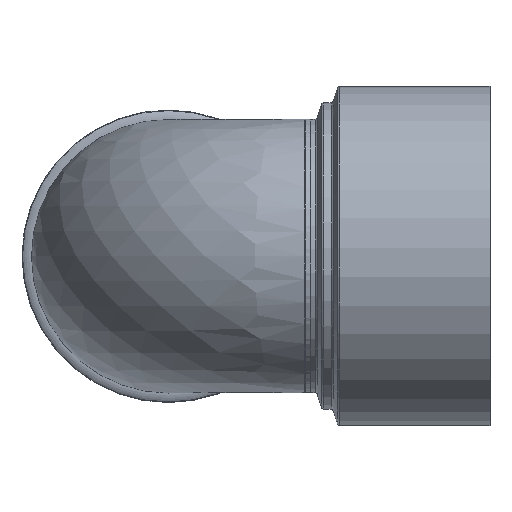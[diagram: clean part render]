
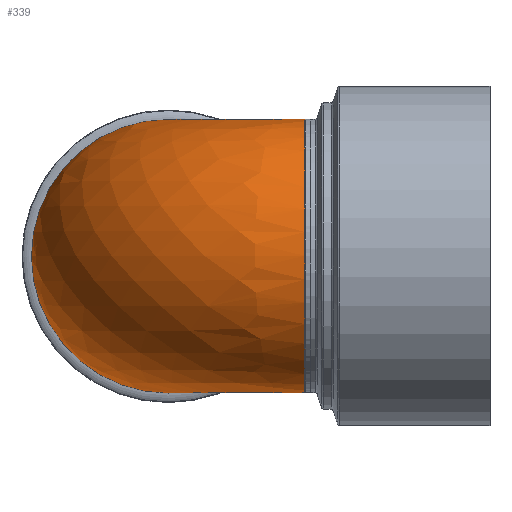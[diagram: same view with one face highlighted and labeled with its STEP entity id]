
A CAD part, top view. The second image highlights one B-rep face of the part: STEP entity #339.
In plain terms, the highlighted free-form (B-spline) face has degree [2, 2] with [9, 9] control points.
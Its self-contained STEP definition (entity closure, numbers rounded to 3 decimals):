
#22=(
BOUNDED_SURFACE()
B_SPLINE_SURFACE(2,2,((#576,#577,#578,#579,#580,#581,#582,#583,#584),(#585,
#586,#587,#588,#589,#590,#591,#592,#593),(#594,#595,#596,#597,#598,#599,
#600,#601,#602),(#603,#604,#605,#606,#607,#608,#609,#610,#611),(#612,#613,
#614,#615,#616,#617,#618,#619,#620),(#621,#622,#623,#624,#625,#626,#627,
#628,#629),(#630,#631,#632,#633,#634,#635,#636,#637,#638),(#639,#640,#641,
#642,#643,#644,#645,#646,#647),(#648,#649,#650,#651,#652,#653,#654,#655,
#656)),.UNSPECIFIED.,.T.,.T.,.F.)
B_SPLINE_SURFACE_WITH_KNOTS((3,2,2,2,3),(3,2,2,2,3),(-3.142,
-1.571,0.,1.571,3.142),(-3.142,
-1.571,0.,1.571,3.142),.UNSPECIFIED.)
GEOMETRIC_REPRESENTATION_ITEM()
RATIONAL_B_SPLINE_SURFACE(((1.,0.707,1.,0.707,1.,
0.707,1.,0.707,1.),(0.707,0.5,0.707,
0.5,0.707,0.5,0.707,0.5,0.707),(1.,
0.707,1.,0.707,1.,0.707,1.,0.707,
1.),(0.707,0.5,0.707,0.5,
0.707,0.5,0.707,0.5,
0.707),(1.,0.707,1.,0.707,1.,0.707,
1.,0.707,1.),(0.707,0.5,0.707,
0.5,0.707,0.5,0.707,
0.5,0.707),(1.,0.707,1.,0.707,
1.,0.707,1.,0.707,1.),(0.707,0.5,0.707,
0.5,0.707,0.5,0.707,0.5,0.707),(1.,
0.707,1.,0.707,1.,0.707,1.,0.707,
1.)))
REPRESENTATION_ITEM($)
SURFACE()
);
#85=FACE_OUTER_BOUND($,#121,.T.);
#121=EDGE_LOOP($,(#259,#260));
#167=CIRCLE($,#383,25.075);
#168=CIRCLE($,#384,25.075);
#195=VERTEX_POINT($,#574);
#222=EDGE_CURVE($,#195,#195,#167,.T.);
#223=EDGE_CURVE($,#195,#195,#168,.T.);
#259=ORIENTED_EDGE($,*,*,#222,.T.);
#260=ORIENTED_EDGE($,*,*,#223,.F.);
#339=ADVANCED_FACE($,(#85),#22,.F.);
#383=AXIS2_PLACEMENT_3D($,#575,#465,#466);
#384=AXIS2_PLACEMENT_3D($,#657,#467,#468);
#465=DIRECTION('center_axis',(-1.,0.,0.));
#466=DIRECTION('ref_axis',(0.,0.,1.));
#467=DIRECTION('center_axis',(0.,0.,-1.));
#468=DIRECTION('ref_axis',(-1.,0.,0.));
#574=CARTESIAN_POINT('',(25.075,0.,57.85));
#575=CARTESIAN_POINT('Origin',(25.075,0.,82.925));
#576=CARTESIAN_POINT('Ctrl Pts',(25.075,0.,57.85));
#577=CARTESIAN_POINT('Ctrl Pts',(25.075,0.,57.85));
#578=CARTESIAN_POINT('Ctrl Pts',(25.075,0.,57.85));
#579=CARTESIAN_POINT('Ctrl Pts',(25.075,0.,57.85));
#580=CARTESIAN_POINT('Ctrl Pts',(25.075,0.,57.85));
#581=CARTESIAN_POINT('Ctrl Pts',(25.075,0.,57.85));
#582=CARTESIAN_POINT('Ctrl Pts',(25.075,0.,57.85));
#583=CARTESIAN_POINT('Ctrl Pts',(25.075,0.,57.85));
#584=CARTESIAN_POINT('Ctrl Pts',(25.075,0.,57.85));
#585=CARTESIAN_POINT('Ctrl Pts',(25.075,-25.075,57.85));
#586=CARTESIAN_POINT('Ctrl Pts',(25.075,-25.075,57.85));
#587=CARTESIAN_POINT('Ctrl Pts',(25.075,-25.075,57.85));
#588=CARTESIAN_POINT('Ctrl Pts',(25.075,-25.075,57.85));
#589=CARTESIAN_POINT('Ctrl Pts',(25.075,-25.075,57.85));
#590=CARTESIAN_POINT('Ctrl Pts',(25.075,-25.075,57.85));
#591=CARTESIAN_POINT('Ctrl Pts',(25.075,-25.075,57.85));
#592=CARTESIAN_POINT('Ctrl Pts',(25.075,-25.075,57.85));
#593=CARTESIAN_POINT('Ctrl Pts',(25.075,-25.075,57.85));
#594=CARTESIAN_POINT('Ctrl Pts',(25.075,-25.075,32.775));
#595=CARTESIAN_POINT('Ctrl Pts',(0.,-25.075,32.775));
#596=CARTESIAN_POINT('Ctrl Pts',(0.,-25.075,57.85));
#597=CARTESIAN_POINT('Ctrl Pts',(0.,-25.075,82.925));
#598=CARTESIAN_POINT('Ctrl Pts',(25.075,-25.075,82.925));
#599=CARTESIAN_POINT('Ctrl Pts',(50.15,-25.075,82.925));
#600=CARTESIAN_POINT('Ctrl Pts',(50.15,-25.075,57.85));
#601=CARTESIAN_POINT('Ctrl Pts',(50.15,-25.075,32.775));
#602=CARTESIAN_POINT('Ctrl Pts',(25.075,-25.075,32.775));
#603=CARTESIAN_POINT('Ctrl Pts',(25.075,-25.075,7.7));
#604=CARTESIAN_POINT('Ctrl Pts',(-25.075,-25.075,7.7));
#605=CARTESIAN_POINT('Ctrl Pts',(-25.075,-25.075,57.85));
#606=CARTESIAN_POINT('Ctrl Pts',(-25.075,-25.075,108.));
#607=CARTESIAN_POINT('Ctrl Pts',(25.075,-25.075,108.));
#608=CARTESIAN_POINT('Ctrl Pts',(75.225,-25.075,108.));
#609=CARTESIAN_POINT('Ctrl Pts',(75.225,-25.075,57.85));
#610=CARTESIAN_POINT('Ctrl Pts',(75.225,-25.075,7.7));
#611=CARTESIAN_POINT('Ctrl Pts',(25.075,-25.075,7.7));
#612=CARTESIAN_POINT('Ctrl Pts',(25.075,0.,7.7));
#613=CARTESIAN_POINT('Ctrl Pts',(-25.075,0.,7.7));
#614=CARTESIAN_POINT('Ctrl Pts',(-25.075,0.,57.85));
#615=CARTESIAN_POINT('Ctrl Pts',(-25.075,0.,108.));
#616=CARTESIAN_POINT('Ctrl Pts',(25.075,0.,108.));
#617=CARTESIAN_POINT('Ctrl Pts',(75.225,0.,108.));
#618=CARTESIAN_POINT('Ctrl Pts',(75.225,0.,57.85));
#619=CARTESIAN_POINT('Ctrl Pts',(75.225,0.,7.7));
#620=CARTESIAN_POINT('Ctrl Pts',(25.075,0.,7.7));
#621=CARTESIAN_POINT('Ctrl Pts',(25.075,25.075,7.7));
#622=CARTESIAN_POINT('Ctrl Pts',(-25.075,25.075,7.7));
#623=CARTESIAN_POINT('Ctrl Pts',(-25.075,25.075,57.85));
#624=CARTESIAN_POINT('Ctrl Pts',(-25.075,25.075,108.));
#625=CARTESIAN_POINT('Ctrl Pts',(25.075,25.075,108.));
#626=CARTESIAN_POINT('Ctrl Pts',(75.225,25.075,108.));
#627=CARTESIAN_POINT('Ctrl Pts',(75.225,25.075,57.85));
#628=CARTESIAN_POINT('Ctrl Pts',(75.225,25.075,7.7));
#629=CARTESIAN_POINT('Ctrl Pts',(25.075,25.075,7.7));
#630=CARTESIAN_POINT('Ctrl Pts',(25.075,25.075,32.775));
#631=CARTESIAN_POINT('Ctrl Pts',(0.,25.075,32.775));
#632=CARTESIAN_POINT('Ctrl Pts',(0.,25.075,57.85));
#633=CARTESIAN_POINT('Ctrl Pts',(0.,25.075,82.925));
#634=CARTESIAN_POINT('Ctrl Pts',(25.075,25.075,82.925));
#635=CARTESIAN_POINT('Ctrl Pts',(50.15,25.075,82.925));
#636=CARTESIAN_POINT('Ctrl Pts',(50.15,25.075,57.85));
#637=CARTESIAN_POINT('Ctrl Pts',(50.15,25.075,32.775));
#638=CARTESIAN_POINT('Ctrl Pts',(25.075,25.075,32.775));
#639=CARTESIAN_POINT('Ctrl Pts',(25.075,25.075,57.85));
#640=CARTESIAN_POINT('Ctrl Pts',(25.075,25.075,57.85));
#641=CARTESIAN_POINT('Ctrl Pts',(25.075,25.075,57.85));
#642=CARTESIAN_POINT('Ctrl Pts',(25.075,25.075,57.85));
#643=CARTESIAN_POINT('Ctrl Pts',(25.075,25.075,57.85));
#644=CARTESIAN_POINT('Ctrl Pts',(25.075,25.075,57.85));
#645=CARTESIAN_POINT('Ctrl Pts',(25.075,25.075,57.85));
#646=CARTESIAN_POINT('Ctrl Pts',(25.075,25.075,57.85));
#647=CARTESIAN_POINT('Ctrl Pts',(25.075,25.075,57.85));
#648=CARTESIAN_POINT('Ctrl Pts',(25.075,0.,57.85));
#649=CARTESIAN_POINT('Ctrl Pts',(25.075,0.,57.85));
#650=CARTESIAN_POINT('Ctrl Pts',(25.075,0.,57.85));
#651=CARTESIAN_POINT('Ctrl Pts',(25.075,0.,57.85));
#652=CARTESIAN_POINT('Ctrl Pts',(25.075,0.,57.85));
#653=CARTESIAN_POINT('Ctrl Pts',(25.075,0.,57.85));
#654=CARTESIAN_POINT('Ctrl Pts',(25.075,0.,57.85));
#655=CARTESIAN_POINT('Ctrl Pts',(25.075,0.,57.85));
#656=CARTESIAN_POINT('Ctrl Pts',(25.075,0.,57.85));
#657=CARTESIAN_POINT('Origin',(0.,0.,57.85));
